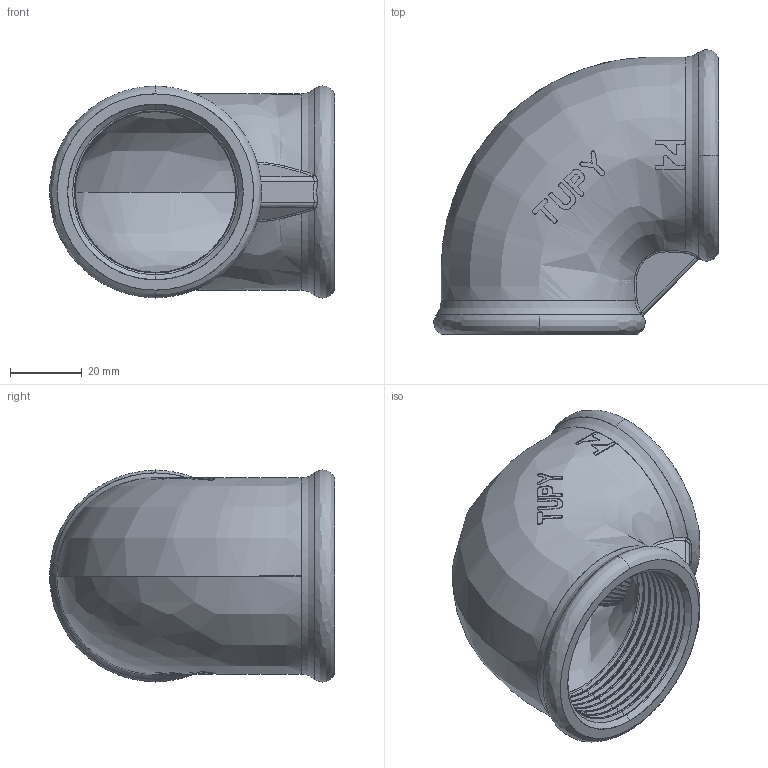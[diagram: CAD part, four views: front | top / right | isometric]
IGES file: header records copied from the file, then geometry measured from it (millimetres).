
Start section: SolidWorks IGES file using analytic representation for surfaces
Global section: file name: C:\Users\Joel Rosa\Desktop\Tubulação\12-07-OK\12-07-009.IGS; native system: SolidWorks 2011; preprocessor: SolidWorks 2011; author: Joel Rosa; date: 121204.003832; units: millimetre
Bounding box: 79.59 x 79.59 x 59.2 mm (x, y, z)
Surface area: 33266.2 mm2 (no closed solid volume)
Topology: 0 solids, 0 shells, 310 faces, 3331 edges, 3331 vertices
Faces by surface type: bspline 238, revolution 72
